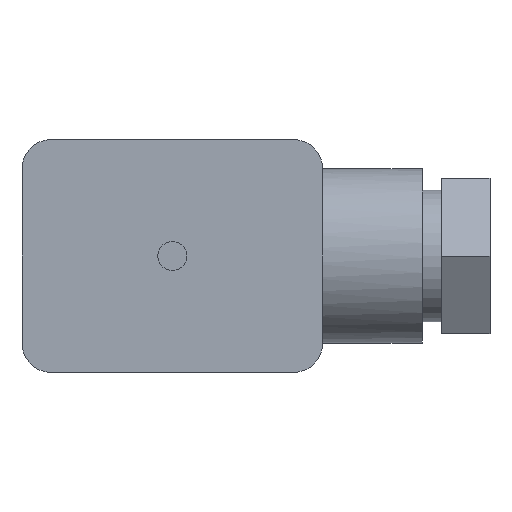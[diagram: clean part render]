
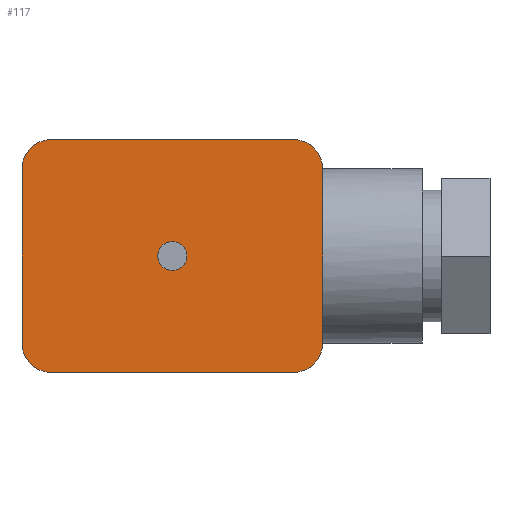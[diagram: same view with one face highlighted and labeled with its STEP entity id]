
A CAD part, front view. The second image highlights one B-rep face of the part: STEP entity #117.
In plain terms, the highlighted planar face has unit normal (0, -1, 0).
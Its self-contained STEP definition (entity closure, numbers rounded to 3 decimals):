
#117 = ADVANCED_FACE( '', ( #261, #262 ), #263, .F. );
#261 = FACE_BOUND( '', #430, .T. );
#262 = FACE_OUTER_BOUND( '', #431, .T. );
#263 = PLANE( '', #432 );
#430 = EDGE_LOOP( '', ( #914 ) );
#431 = EDGE_LOOP( '', ( #915, #916, #917, #918, #919, #920, #921, #922 ) );
#432 = AXIS2_PLACEMENT_3D( '', #923, #924, #925 );
#914 = ORIENTED_EDGE( '', *, *, #1247, .F. );
#915 = ORIENTED_EDGE( '', *, *, #1254, .F. );
#916 = ORIENTED_EDGE( '', *, *, #1255, .T. );
#917 = ORIENTED_EDGE( '', *, *, #1256, .T. );
#918 = ORIENTED_EDGE( '', *, *, #1257, .T. );
#919 = ORIENTED_EDGE( '', *, *, #1258, .T. );
#920 = ORIENTED_EDGE( '', *, *, #1249, .T. );
#921 = ORIENTED_EDGE( '', *, *, #1259, .F. );
#922 = ORIENTED_EDGE( '', *, *, #1191, .T. );
#923 = CARTESIAN_POINT( '', ( 0., 0., 24. ) );
#924 = DIRECTION( '', ( 0., 1., 0. ) );
#925 = DIRECTION( '', ( 0., 0., 1. ) );
#1191 = EDGE_CURVE( '', #1374, #1375, #1376, .F. );
#1247 = EDGE_CURVE( '', #1460, #1460, #1461, .F. );
#1249 = EDGE_CURVE( '', #1463, #1464, #1465, .F. );
#1254 = EDGE_CURVE( '', #1472, #1375, #1473, .T. );
#1255 = EDGE_CURVE( '', #1472, #1474, #1475, .F. );
#1256 = EDGE_CURVE( '', #1474, #1476, #1477, .T. );
#1257 = EDGE_CURVE( '', #1476, #1478, #1479, .F. );
#1258 = EDGE_CURVE( '', #1478, #1463, #1480, .T. );
#1259 = EDGE_CURVE( '', #1374, #1464, #1481, .T. );
#1374 = VERTEX_POINT( '', #1656 );
#1375 = VERTEX_POINT( '', #1657 );
#1376 = CIRCLE( '', #1658, 3. );
#1460 = VERTEX_POINT( '', #1857 );
#1461 = CIRCLE( '', #1858, 1.5 );
#1463 = VERTEX_POINT( '', #1860 );
#1464 = VERTEX_POINT( '', #1861 );
#1465 = CIRCLE( '', #1862, 3. );
#1472 = VERTEX_POINT( '', #1871 );
#1473 = LINE( '', #1872, #1873 );
#1474 = VERTEX_POINT( '', #1874 );
#1475 = CIRCLE( '', #1875, 3. );
#1476 = VERTEX_POINT( '', #1876 );
#1477 = LINE( '', #1877, #1878 );
#1478 = VERTEX_POINT( '', #1879 );
#1479 = CIRCLE( '', #1880, 3. );
#1480 = LINE( '', #1881, #1882 );
#1481 = LINE( '', #1883, #1884 );
#1656 = CARTESIAN_POINT( '', ( 31., 0., 21. ) );
#1657 = CARTESIAN_POINT( '', ( 28., 0., 24. ) );
#1658 = AXIS2_PLACEMENT_3D( '', #2018, #2019, #2020 );
#1857 = CARTESIAN_POINT( '', ( 15.5, 0., 13.5 ) );
#1858 = AXIS2_PLACEMENT_3D( '', #2095, #2096, #2097 );
#1860 = CARTESIAN_POINT( '', ( 28., 0., 0. ) );
#1861 = CARTESIAN_POINT( '', ( 31., 0., 3. ) );
#1862 = AXIS2_PLACEMENT_3D( '', #2098, #2099, #2100 );
#1871 = CARTESIAN_POINT( '', ( 3., 0., 24. ) );
#1872 = CARTESIAN_POINT( '', ( 0., 0., 24. ) );
#1873 = VECTOR( '', #2106, 1000. );
#1874 = CARTESIAN_POINT( '', ( 0., 0., 21. ) );
#1875 = AXIS2_PLACEMENT_3D( '', #2107, #2108, #2109 );
#1876 = CARTESIAN_POINT( '', ( 0., 0., 3. ) );
#1877 = CARTESIAN_POINT( '', ( 0., 0., 24. ) );
#1878 = VECTOR( '', #2110, 1000. );
#1879 = CARTESIAN_POINT( '', ( 3., 0., 0. ) );
#1880 = AXIS2_PLACEMENT_3D( '', #2111, #2112, #2113 );
#1881 = CARTESIAN_POINT( '', ( 0., 0., 0. ) );
#1882 = VECTOR( '', #2114, 1000. );
#1883 = CARTESIAN_POINT( '', ( 31., 0., 24. ) );
#1884 = VECTOR( '', #2115, 1000. );
#2018 = CARTESIAN_POINT( '', ( 28., 0., 21. ) );
#2019 = DIRECTION( '', ( 0., 1., 0. ) );
#2020 = DIRECTION( '', ( 0., 0., 1. ) );
#2095 = CARTESIAN_POINT( '', ( 15.5, 0., 12. ) );
#2096 = DIRECTION( '', ( 0., 1., 0. ) );
#2097 = DIRECTION( '', ( 0., 0., 1. ) );
#2098 = CARTESIAN_POINT( '', ( 28., 0., 3. ) );
#2099 = DIRECTION( '', ( 0., 1., 0. ) );
#2100 = DIRECTION( '', ( 0., 0., 1. ) );
#2106 = DIRECTION( '', ( 1., 0., 0. ) );
#2107 = CARTESIAN_POINT( '', ( 3., 0., 21. ) );
#2108 = DIRECTION( '', ( 0., 1., 0. ) );
#2109 = DIRECTION( '', ( 0., 0., 1. ) );
#2110 = DIRECTION( '', ( 0., 0., -1. ) );
#2111 = CARTESIAN_POINT( '', ( 3., 0., 3. ) );
#2112 = DIRECTION( '', ( 0., 1., 0. ) );
#2113 = DIRECTION( '', ( 0., 0., 1. ) );
#2114 = DIRECTION( '', ( 1., 0., 0. ) );
#2115 = DIRECTION( '', ( 0., 0., -1. ) );
